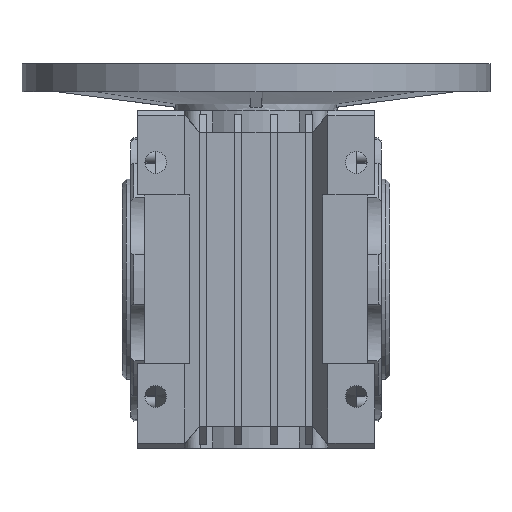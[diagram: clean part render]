
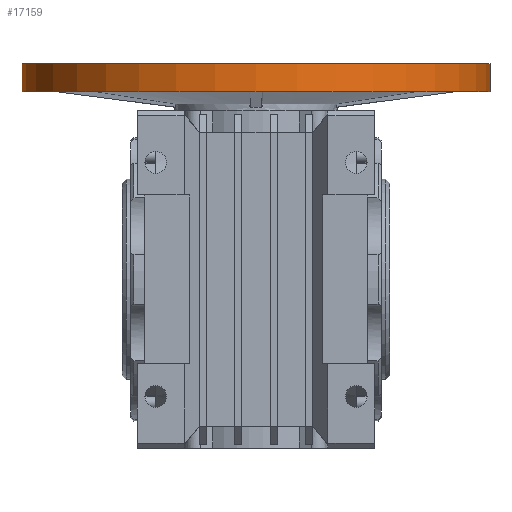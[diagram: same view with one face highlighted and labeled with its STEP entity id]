
A CAD part, front view. The second image highlights one B-rep face of the part: STEP entity #17159.
In plain terms, the highlighted cylindrical face has radius 70 mm (diameter 140 mm), a full revolution.
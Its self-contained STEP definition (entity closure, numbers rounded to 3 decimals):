
#1581=LINE('',#28518,#3137);
#3137=VECTOR('',#23167,70.);
#3582=CYLINDRICAL_SURFACE('',#18722,70.);
#4547=FACE_OUTER_BOUND('',#5543,.T.);
#5543=EDGE_LOOP('',(#14393,#14394,#14395,#14396));
#6231=CIRCLE('',#18568,70.);
#6288=CIRCLE('',#18723,70.);
#7613=VERTEX_POINT('',#28015);
#7769=VERTEX_POINT('',#28516);
#9801=EDGE_CURVE('',#7613,#7613,#6231,.T.);
#10044=EDGE_CURVE('',#7769,#7769,#6288,.T.);
#10045=EDGE_CURVE('',#7769,#7613,#1581,.T.);
#14393=ORIENTED_EDGE('',*,*,#10044,.T.);
#14394=ORIENTED_EDGE('',*,*,#10045,.T.);
#14395=ORIENTED_EDGE('',*,*,#9801,.F.);
#14396=ORIENTED_EDGE('',*,*,#10045,.F.);
#17159=ADVANCED_FACE('',(#4547),#3582,.T.);
#18568=AXIS2_PLACEMENT_3D('',#28016,#22671,#22672);
#18722=AXIS2_PLACEMENT_3D('',#28515,#23163,#23164);
#18723=AXIS2_PLACEMENT_3D('',#28517,#23165,#23166);
#22671=DIRECTION('center_axis',(0.,0.,
-1.));
#22672=DIRECTION('ref_axis',(-1.,0.,0.));
#23163=DIRECTION('center_axis',(0.,0.,
1.));
#23164=DIRECTION('ref_axis',(-1.,0.,0.));
#23165=DIRECTION('center_axis',(0.,0.,
-1.));
#23166=DIRECTION('ref_axis',(-1.,0.,0.));
#23167=DIRECTION('',(0.,0.,-1.));
#28015=CARTESIAN_POINT('',(70.,40.,56.1));
#28016=CARTESIAN_POINT('Origin',(0.,40.,
56.1));
#28515=CARTESIAN_POINT('Origin',(0.,40.,
-83.604));
#28516=CARTESIAN_POINT('',(70.,40.,64.5));
#28517=CARTESIAN_POINT('Origin',(0.,40.,64.5));
#28518=CARTESIAN_POINT('',(70.,40.,-83.604));
